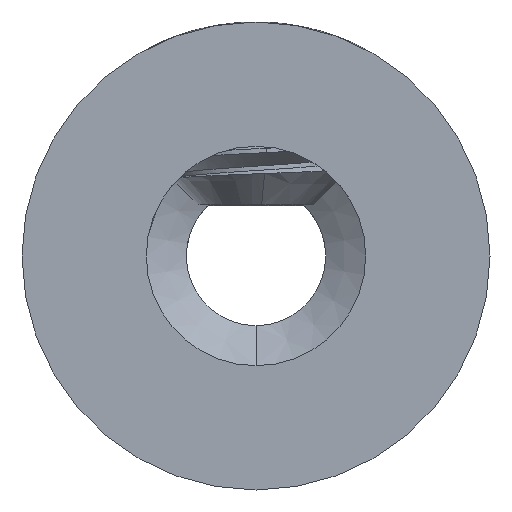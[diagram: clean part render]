
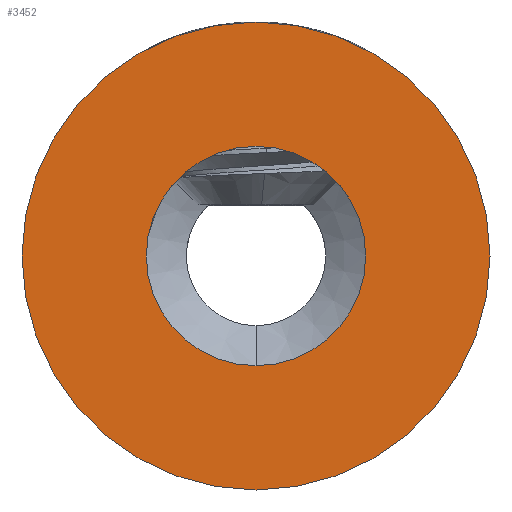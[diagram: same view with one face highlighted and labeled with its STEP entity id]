
A CAD part, front view. The second image highlights one B-rep face of the part: STEP entity #3452.
In plain terms, the highlighted planar face has unit normal (0, -1, 0).
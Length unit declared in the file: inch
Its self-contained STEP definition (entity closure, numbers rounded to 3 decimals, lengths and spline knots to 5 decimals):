
#208 = DIRECTION ( 'NONE',  ( 0., 0., 1. ) ) ;
#319 = CARTESIAN_POINT ( 'NONE',  ( 0., 0., 0.09843 ) ) ;
#929 = DIRECTION ( 'NONE',  ( 0., 0., -1. ) ) ;
#1218 = VERTEX_POINT ( 'NONE', #8967 ) ;
#1857 = ORIENTED_EDGE ( 'NONE', *, *, #7101, .F. ) ;
#3452 = ADVANCED_FACE ( 'NONE', ( #11527, #6912 ), #4711, .F. ) ;
#3790 = DIRECTION ( 'NONE',  ( 0., 0., -1. ) ) ;
#3975 = CIRCLE ( 'NONE', #5786, 0.09843 ) ;
#4711 = PLANE ( 'NONE',  #11549 ) ;
#4734 = CIRCLE ( 'NONE', #12884, 0.21 ) ;
#4935 = EDGE_CURVE ( 'NONE', #10248, #7182, #9387, .T. ) ;
#5100 = DIRECTION ( 'NONE',  ( 0., 1., 0. ) ) ;
#5255 = CARTESIAN_POINT ( 'NONE',  ( 0., 0., 0. ) ) ;
#5311 = ORIENTED_EDGE ( 'NONE', *, *, #9631, .F. ) ;
#5351 = AXIS2_PLACEMENT_3D ( 'NONE', #6006, #7190, #3790 ) ;
#5786 = AXIS2_PLACEMENT_3D ( 'NONE', #10934, #13387, #929 ) ;
#6006 = CARTESIAN_POINT ( 'NONE',  ( 0., 0., 0. ) ) ;
#6468 = EDGE_LOOP ( 'NONE', ( #1857, #12571 ) ) ;
#6912 = FACE_OUTER_BOUND ( 'NONE', #6468, .T. ) ;
#7010 = DIRECTION ( 'NONE',  ( 0., 1., 0. ) ) ;
#7101 = EDGE_CURVE ( 'NONE', #11302, #1218, #4734, .T. ) ;
#7182 = VERTEX_POINT ( 'NONE', #9018 ) ;
#7190 = DIRECTION ( 'NONE',  ( 0., -1., 0. ) ) ;
#7251 = EDGE_CURVE ( 'NONE', #1218, #11302, #11135, .T. ) ;
#8967 = CARTESIAN_POINT ( 'NONE',  ( 0., 0., 0.21 ) ) ;
#9018 = CARTESIAN_POINT ( 'NONE',  ( 0., 0., -0.09843 ) ) ;
#9387 = CIRCLE ( 'NONE', #5351, 0.09843 ) ;
#9631 = EDGE_CURVE ( 'NONE', #7182, #10248, #3975, .T. ) ;
#9673 = DIRECTION ( 'NONE',  ( 0., 0., 1. ) ) ;
#10237 = CARTESIAN_POINT ( 'NONE',  ( 0., 0., 0. ) ) ;
#10248 = VERTEX_POINT ( 'NONE', #319 ) ;
#10565 = CARTESIAN_POINT ( 'NONE',  ( 0., 0., 0. ) ) ;
#10934 = CARTESIAN_POINT ( 'NONE',  ( 0., 0., 0. ) ) ;
#11135 = CIRCLE ( 'NONE', #14615, 0.21 ) ;
#11302 = VERTEX_POINT ( 'NONE', #14248 ) ;
#11527 = FACE_BOUND ( 'NONE', #12144, .T. ) ;
#11549 = AXIS2_PLACEMENT_3D ( 'NONE', #10237, #7010, #208 ) ;
#11664 = DIRECTION ( 'NONE',  ( 0., 0., 1. ) ) ;
#12144 = EDGE_LOOP ( 'NONE', ( #5311, #12688 ) ) ;
#12571 = ORIENTED_EDGE ( 'NONE', *, *, #7251, .F. ) ;
#12688 = ORIENTED_EDGE ( 'NONE', *, *, #4935, .F. ) ;
#12846 = DIRECTION ( 'NONE',  ( 0., 1., 0. ) ) ;
#12884 = AXIS2_PLACEMENT_3D ( 'NONE', #10565, #12846, #11664 ) ;
#13387 = DIRECTION ( 'NONE',  ( 0., -1., 0. ) ) ;
#14248 = CARTESIAN_POINT ( 'NONE',  ( 0., 0., -0.21 ) ) ;
#14615 = AXIS2_PLACEMENT_3D ( 'NONE', #5255, #5100, #9673 ) ;
